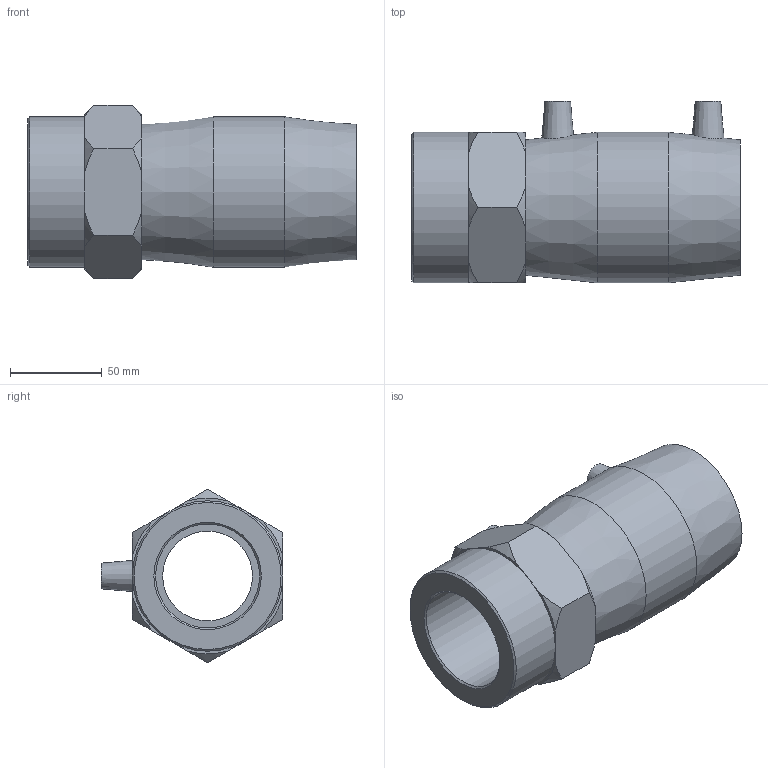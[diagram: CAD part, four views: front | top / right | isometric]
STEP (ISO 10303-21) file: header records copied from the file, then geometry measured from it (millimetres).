
FILE_DESCRIPTION(/* description */ ('PLASSON FEMALE TRANSITION COUPLER 63-2"'),/* implementation_level */ '2;1');
FILE_NAME(/* name */ 'C:\Dropbox\KIMPROJECTS-Inventor\99-16-3568-Processing\ElectroFusion Fittings\02.02.20\493104\493104063020N.ipt.stp',/* time_stamp */ '2020-02-02T12:20:28+02:00',/* author */ ('KIM'),/* organization */ (''),/* preprocessor_version */ 'ST-DEVELOPER v15.6',/* originating_system */ 'Autodesk Inventor 2015',/* authorisation */ '');
FILE_SCHEMA (('AUTOMOTIVE_DESIGN { 1 0 10303 214 3 1 1 }'));
Length unit declared in the file: millimetre
Products named in the file (1): 493104063020N
Bounding box: 179 x 99 x 94.69 mm (x, y, z)
Volume: 482269.1 mm3; surface area: 87839.6 mm2
Topology: 1 solids, 1 shells, 54 faces, 121 edges, 77 vertices
Faces by surface type: plane 24, cone 20, cylinder 10
Full cylindrical faces by diameter (mm): 4 x2, 10 x2, 49 x1, 56.656 x1, 63 x2, 82 x2
Entity records: 1414 total; most frequent: CARTESIAN_POINT 335, DIRECTION 224, ORIENTED_EDGE 190, AXIS2_PLACEMENT_3D 100, EDGE_CURVE 95, EDGE_LOOP 84, VERTEX_POINT 71, FACE_OUTER_BOUND 54
